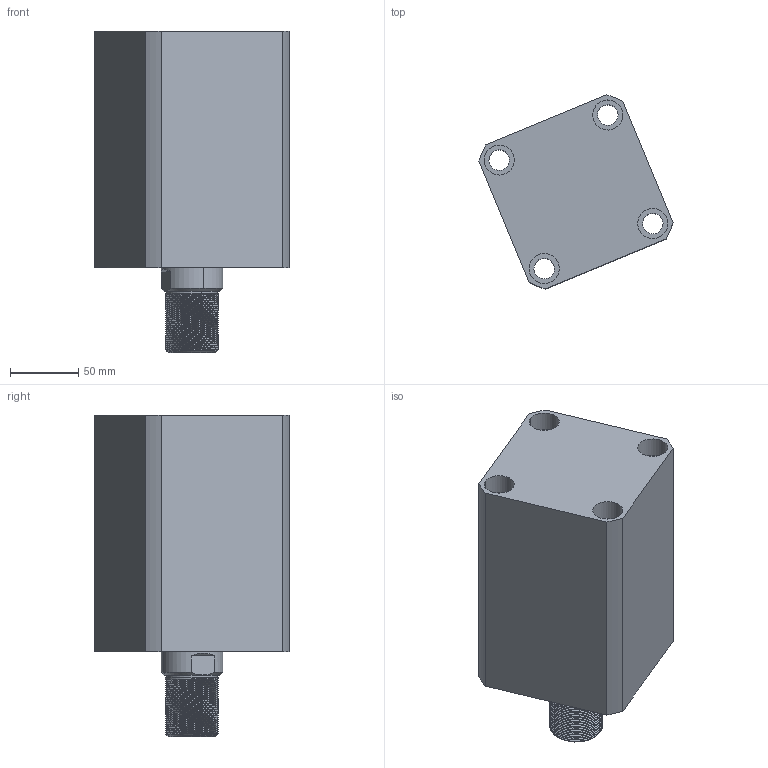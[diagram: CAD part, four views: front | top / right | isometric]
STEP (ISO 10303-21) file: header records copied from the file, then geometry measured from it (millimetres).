
FILE_DESCRIPTION (( 'STEP AP214' ), '1' );
FILE_NAME ('chtb-sd80x95n_asm.STEP', '2018-05-26T08:58:21', ( 'Windows' ), ( 'Microsoft' ), 'SwSTEP 2.0', 'SolidWorks 2015', '' );
FILE_SCHEMA (( 'AUTOMOTIVE_DESIGN' ));
Length unit declared in the file: millimetre
Products named in the file (4): CHTB-SD80X95NBT; CHTB-SD80QG; chtb-sd80x95n_asm; CHTB-SD80X95NHSG
Assembly tree (3 placements, depth 2):
  chtb-sd80x95n_asm
    CHTB-SD80QG
    CHTB-SD80X95NBT
    CHTB-SD80X95NHSG
Bounding box: 142.06 x 142.06 x 235 mm (x, y, z)
Volume: 1803638.7 mm3; surface area: 252913.2 mm2
Topology: 3 solids, 3 shells, 253 faces, 689 edges, 462 vertices
Faces by surface type: cylinder 159, plane 40, cone 20, torus 18, bspline 16
Entity records: 20271 total; most frequent: CARTESIAN_POINT 14293, ORIENTED_EDGE 1370, DIRECTION 1078, EDGE_CURVE 685, VERTEX_POINT 462, AXIS2_PLACEMENT_3D 439, EDGE_LOOP 291, ADVANCED_FACE 253
